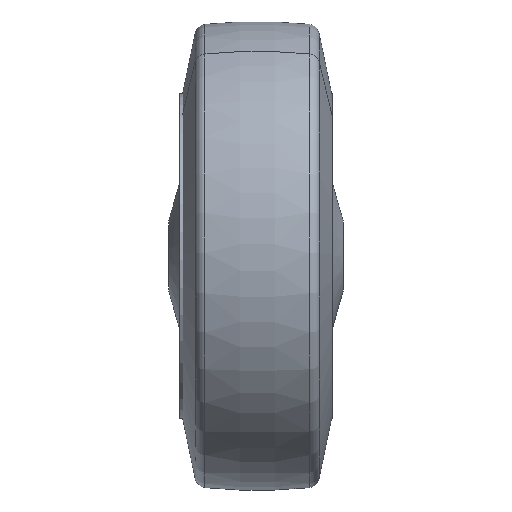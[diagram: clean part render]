
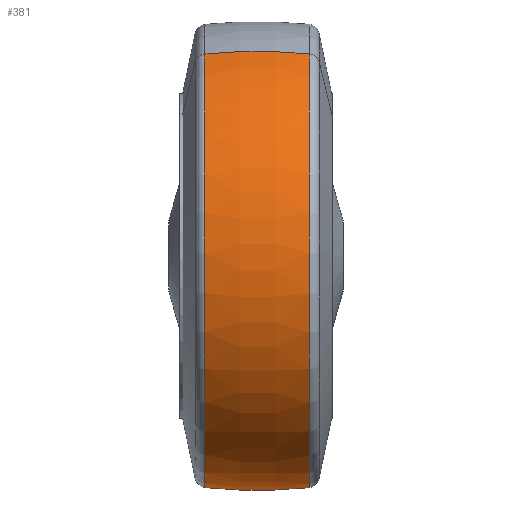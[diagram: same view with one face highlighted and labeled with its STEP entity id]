
A CAD part, left-side view. The second image highlights one B-rep face of the part: STEP entity #381.
In plain terms, the highlighted toroidal (fillet/blend) face has major radius 62.5 mm and minor radius 125 mm.
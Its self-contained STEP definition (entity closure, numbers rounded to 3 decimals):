
#267 = EDGE_LOOP ( 'NONE', ( #386, #400, #275, #383 ) ) ;
#275 = ORIENTED_EDGE ( 'NONE', *, *, #453, .T. ) ;
#316 = VERTEX_POINT ( 'NONE', #1059 ) ;
#317 = VERTEX_POINT ( 'NONE', #1058 ) ;
#318 = VERTEX_POINT ( 'NONE', #1062 ) ;
#319 = VERTEX_POINT ( 'NONE', #1057 ) ;
#381 = ADVANCED_FACE ( 'NONE', ( #1160 ), #1140, .T. ) ;
#383 = ORIENTED_EDGE ( 'NONE', *, *, #469, .F. ) ;
#386 = ORIENTED_EDGE ( 'NONE', *, *, #450, .F. ) ;
#400 = ORIENTED_EDGE ( 'NONE', *, *, #467, .T. ) ;
#450 = EDGE_CURVE ( 'NONE', #316, #318, #1261, .T. ) ;
#453 = EDGE_CURVE ( 'NONE', #319, #317, #1265, .T. ) ;
#467 = EDGE_CURVE ( 'NONE', #316, #319, #1378, .T. ) ;
#469 = EDGE_CURVE ( 'NONE', #318, #317, #1372, .T. ) ;
#1057 = CARTESIAN_POINT ( 'NONE',  ( -31.664, -24.04, 53.36 ) ) ;
#1058 = CARTESIAN_POINT ( 'NONE',  ( -31.664, 3.753, 53.36 ) ) ;
#1059 = CARTESIAN_POINT ( 'NONE',  ( 28.707, -24.04, -54.322 ) ) ;
#1062 = CARTESIAN_POINT ( 'NONE',  ( 28.707, 3.753, -54.322 ) ) ;
#1104 = AXIS2_PLACEMENT_3D ( 'NONE', #1147, #1146, #1138 ) ;
#1138 = DIRECTION ( 'NONE',  ( -0.489, 0., 0.872 ) ) ;
#1140 = TOROIDAL_SURFACE ( 'NONE', #1104, -62.5, 125. ) ;
#1146 = DIRECTION ( 'NONE',  ( 0., 1., 0. ) ) ;
#1147 = CARTESIAN_POINT ( 'NONE',  ( -1.478, -10.144, -0.481 ) ) ;
#1160 = FACE_OUTER_BOUND ( 'NONE', #267, .T. ) ;
#1244 = CARTESIAN_POINT ( 'NONE',  ( -1.478, -24.04, -0.481 ) ) ;
#1248 = DIRECTION ( 'NONE',  ( -0.489, 0., 0.872 ) ) ;
#1249 = DIRECTION ( 'NONE',  ( -0.872, 0., -0.489 ) ) ;
#1251 = AXIS2_PLACEMENT_3D ( 'NONE', #1416, #1249, #1248 ) ;
#1258 = DIRECTION ( 'NONE',  ( 0.489, 0., -0.872 ) ) ;
#1259 = DIRECTION ( 'NONE',  ( 0.872, 0., 0.489 ) ) ;
#1260 = AXIS2_PLACEMENT_3D ( 'NONE', #1268, #1259, #1258 ) ;
#1261 = CIRCLE ( 'NONE', #1260, 125. ) ;
#1265 = CIRCLE ( 'NONE', #1251, 125. ) ;
#1268 = CARTESIAN_POINT ( 'NONE',  ( -32.042, -10.144, 54.036 ) ) ;
#1369 = DIRECTION ( 'NONE',  ( 0., 1., 0. ) ) ;
#1370 = CARTESIAN_POINT ( 'NONE',  ( -1.478, 3.753, -0.481 ) ) ;
#1371 = AXIS2_PLACEMENT_3D ( 'NONE', #1370, #1369, #1411 ) ;
#1372 = CIRCLE ( 'NONE', #1371, 61.725 ) ;
#1375 = DIRECTION ( 'NONE',  ( -0.489, 0., 0.872 ) ) ;
#1376 = DIRECTION ( 'NONE',  ( 0., 1., 0. ) ) ;
#1377 = AXIS2_PLACEMENT_3D ( 'NONE', #1244, #1376, #1375 ) ;
#1378 = CIRCLE ( 'NONE', #1377, 61.725 ) ;
#1411 = DIRECTION ( 'NONE',  ( -0.489, 0., 0.872 ) ) ;
#1416 = CARTESIAN_POINT ( 'NONE',  ( 29.086, -10.144, -54.998 ) ) ;
